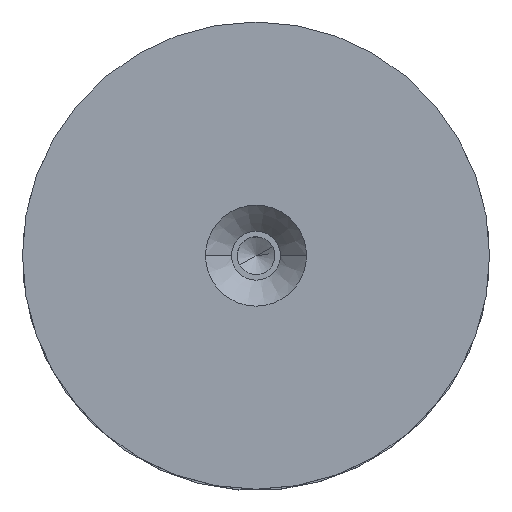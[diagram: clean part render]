
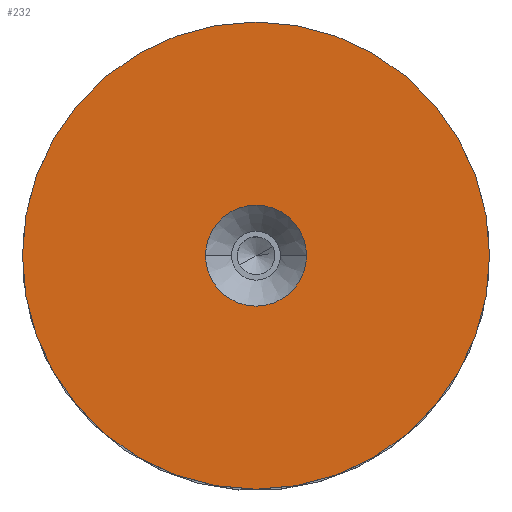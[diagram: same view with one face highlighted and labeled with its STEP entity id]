
A CAD part, top view. The second image highlights one B-rep face of the part: STEP entity #232.
In plain terms, the highlighted planar face has unit normal (0, 0, 1).
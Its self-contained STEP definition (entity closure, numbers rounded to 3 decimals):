
#51 = ORIENTED_EDGE ( 'NONE', *, *, #298, .T. ) ;
#64 = CARTESIAN_POINT ( 'NONE',  ( -52.5, 0., 10. ) ) ;
#69 = ORIENTED_EDGE ( 'NONE', *, *, #263, .T. ) ;
#91 = VERTEX_POINT ( 'NONE', #64 ) ;
#111 = VERTEX_POINT ( 'NONE', #410 ) ;
#159 = CARTESIAN_POINT ( 'NONE',  ( 0., 0., 10. ) ) ;
#161 = CIRCLE ( 'NONE', #249, 11.35 ) ;
#183 = FACE_OUTER_BOUND ( 'NONE', #674, .T. ) ;
#185 = EDGE_CURVE ( 'NONE', #111, #91, #600, .T. ) ;
#186 = CARTESIAN_POINT ( 'NONE',  ( 0., 0., 10. ) ) ;
#206 = AXIS2_PLACEMENT_3D ( 'NONE', #392, #772, #324 ) ;
#222 = DIRECTION ( 'NONE',  ( 1., 0., 0. ) ) ;
#232 = ADVANCED_FACE ( 'NONE', ( #621, #183 ), #527, .T. ) ;
#233 = AXIS2_PLACEMENT_3D ( 'NONE', #159, #641, #222 ) ;
#242 = DIRECTION ( 'NONE',  ( 0., 0., -1. ) ) ;
#249 = AXIS2_PLACEMENT_3D ( 'NONE', #719, #242, #658 ) ;
#263 = EDGE_CURVE ( 'NONE', #568, #854, #161, .T. ) ;
#291 = CIRCLE ( 'NONE', #206, 11.35 ) ;
#298 = EDGE_CURVE ( 'NONE', #854, #568, #291, .T. ) ;
#324 = DIRECTION ( 'NONE',  ( 1., 0., 0. ) ) ;
#360 = ORIENTED_EDGE ( 'NONE', *, *, #185, .T. ) ;
#375 = AXIS2_PLACEMENT_3D ( 'NONE', #186, #462, #846 ) ;
#392 = CARTESIAN_POINT ( 'NONE',  ( 0., 0., 10. ) ) ;
#402 = DIRECTION ( 'NONE',  ( 0., 0., 1. ) ) ;
#410 = CARTESIAN_POINT ( 'NONE',  ( 52.5, 0., 10. ) ) ;
#462 = DIRECTION ( 'NONE',  ( 0., 0., 1. ) ) ;
#521 = CARTESIAN_POINT ( 'NONE',  ( -11.35, 0., 10. ) ) ;
#527 = PLANE ( 'NONE',  #375 ) ;
#530 = EDGE_LOOP ( 'NONE', ( #69, #51 ) ) ;
#545 = AXIS2_PLACEMENT_3D ( 'NONE', #852, #402, #781 ) ;
#556 = CARTESIAN_POINT ( 'NONE',  ( 11.35, 0., 10. ) ) ;
#568 = VERTEX_POINT ( 'NONE', #556 ) ;
#600 = CIRCLE ( 'NONE', #545, 52.5 ) ;
#621 = FACE_BOUND ( 'NONE', #530, .T. ) ;
#641 = DIRECTION ( 'NONE',  ( 0., 0., 1. ) ) ;
#645 = ORIENTED_EDGE ( 'NONE', *, *, #790, .T. ) ;
#658 = DIRECTION ( 'NONE',  ( 1., 0., 0. ) ) ;
#674 = EDGE_LOOP ( 'NONE', ( #645, #360 ) ) ;
#719 = CARTESIAN_POINT ( 'NONE',  ( 0., 0., 10. ) ) ;
#772 = DIRECTION ( 'NONE',  ( 0., 0., -1. ) ) ;
#781 = DIRECTION ( 'NONE',  ( 1., 0., 0. ) ) ;
#790 = EDGE_CURVE ( 'NONE', #91, #111, #823, .T. ) ;
#823 = CIRCLE ( 'NONE', #233, 52.5 ) ;
#846 = DIRECTION ( 'NONE',  ( 1., 0., 0. ) ) ;
#852 = CARTESIAN_POINT ( 'NONE',  ( 0., 0., 10. ) ) ;
#854 = VERTEX_POINT ( 'NONE', #521 ) ;
